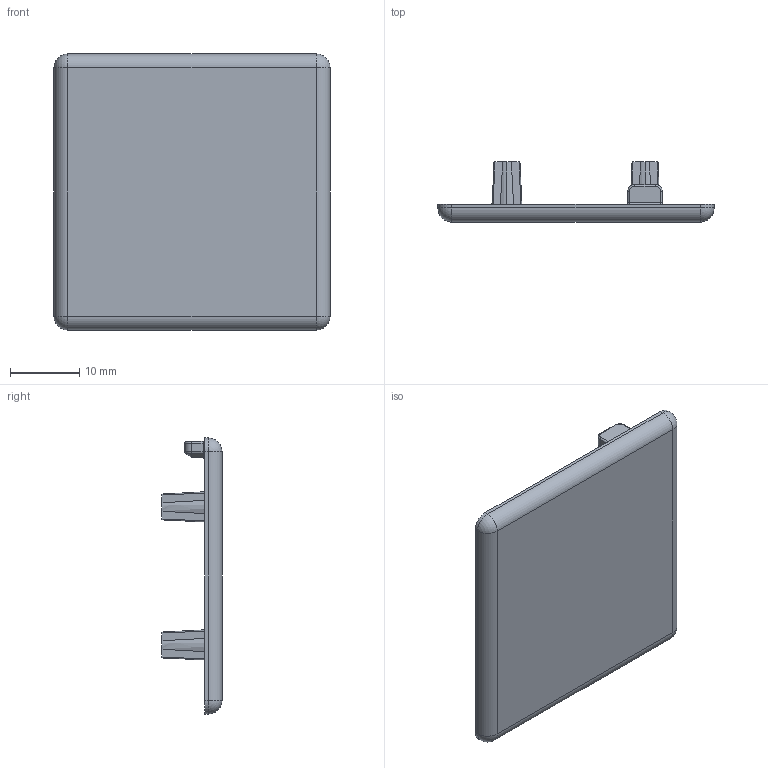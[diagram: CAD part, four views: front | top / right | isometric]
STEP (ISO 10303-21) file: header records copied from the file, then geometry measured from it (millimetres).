
FILE_DESCRIPTION (( 'STEP AP203' ), '1' );
FILE_NAME ('421026_Abdeckkappe 5 40x40, t=2,5.step', '2022-06-24T07:28:04', ( '' ), ( '' ), 'SwSTEP 2.0', 'SolidWorks 2021', '' );
FILE_SCHEMA (( 'CONFIG_CONTROL_DESIGN' ));
Length unit declared in the file: millimetre
Products named in the file (1): 421026_Abdeckkappe 5 40x40, t=2,5
Bounding box: 40 x 8.7 x 40 mm (x, y, z)
Volume: 3299.6 mm3; surface area: 4007.7 mm2
Topology: 1 solids, 1 shells, 118 faces, 294 edges, 178 vertices
Faces by surface type: plane 55, cylinder 25, cone 22, torus 10, sphere 4, bspline 2
Entity records: 4050 total; most frequent: CARTESIAN_POINT 1208, DIRECTION 580, ORIENTED_EDGE 576, EDGE_CURVE 288, AXIS2_PLACEMENT_3D 213, VERTEX_POINT 178, LINE 154, VECTOR 154
